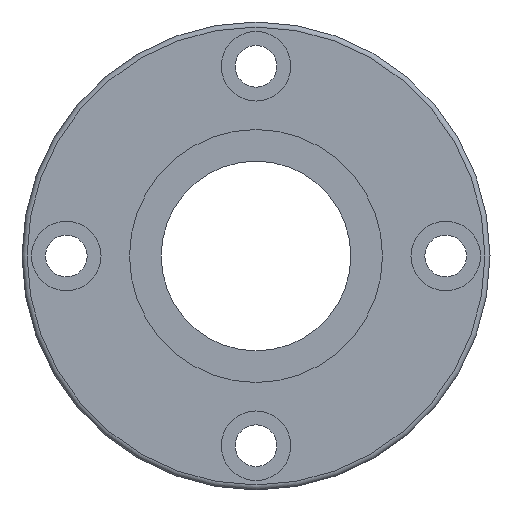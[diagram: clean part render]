
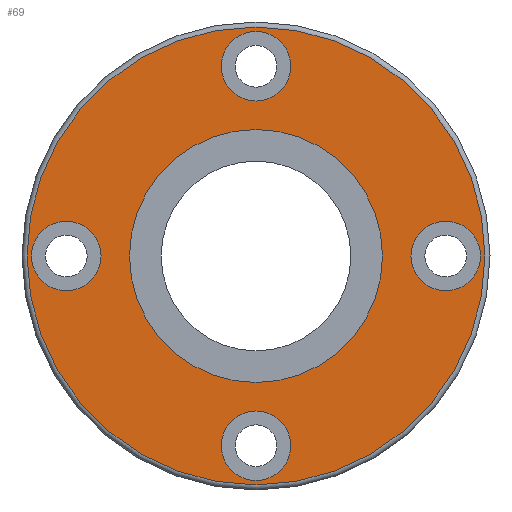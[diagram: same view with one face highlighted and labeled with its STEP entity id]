
A CAD part, left-side view. The second image highlights one B-rep face of the part: STEP entity #69.
In plain terms, the highlighted planar face has unit normal (-1, 0, 0).
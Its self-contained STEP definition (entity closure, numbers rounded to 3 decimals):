
#69 = ADVANCED_FACE( '', ( #162, #163, #164, #165, #166, #167 ), #168, .T. );
#162 = FACE_BOUND( '', #285, .T. );
#163 = FACE_BOUND( '', #286, .T. );
#164 = FACE_BOUND( '', #287, .T. );
#165 = FACE_BOUND( '', #288, .T. );
#166 = FACE_BOUND( '', #289, .T. );
#167 = FACE_OUTER_BOUND( '', #290, .T. );
#168 = PLANE( '', #291 );
#285 = EDGE_LOOP( '', ( #420 ) );
#286 = EDGE_LOOP( '', ( #421 ) );
#287 = EDGE_LOOP( '', ( #422 ) );
#288 = EDGE_LOOP( '', ( #423 ) );
#289 = EDGE_LOOP( '', ( #424 ) );
#290 = EDGE_LOOP( '', ( #425 ) );
#291 = AXIS2_PLACEMENT_3D( '', #426, #427, #428 );
#420 = ORIENTED_EDGE( '', *, *, #559, .T. );
#421 = ORIENTED_EDGE( '', *, *, #560, .T. );
#422 = ORIENTED_EDGE( '', *, *, #561, .T. );
#423 = ORIENTED_EDGE( '', *, *, #562, .T. );
#424 = ORIENTED_EDGE( '', *, *, #563, .F. );
#425 = ORIENTED_EDGE( '', *, *, #556, .T. );
#426 = CARTESIAN_POINT( '', ( 0., 28.4, 0. ) );
#427 = DIRECTION( '', ( -1., 0., 0. ) );
#428 = DIRECTION( '', ( 0., 1., 0. ) );
#556 = EDGE_CURVE( '', #630, #630, #631, .T. );
#559 = EDGE_CURVE( '', #635, #635, #636, .T. );
#560 = EDGE_CURVE( '', #637, #637, #638, .T. );
#561 = EDGE_CURVE( '', #639, #639, #640, .T. );
#562 = EDGE_CURVE( '', #641, #641, #642, .T. );
#563 = EDGE_CURVE( '', #643, #643, #644, .T. );
#630 = VERTEX_POINT( '', #719 );
#631 = CIRCLE( '', #720, 36.2 );
#635 = VERTEX_POINT( '', #724 );
#636 = CIRCLE( '', #725, 5.5 );
#637 = VERTEX_POINT( '', #726 );
#638 = CIRCLE( '', #727, 5.5 );
#639 = VERTEX_POINT( '', #728 );
#640 = CIRCLE( '', #729, 5.5 );
#641 = VERTEX_POINT( '', #730 );
#642 = CIRCLE( '', #731, 5.5 );
#643 = VERTEX_POINT( '', #732 );
#644 = CIRCLE( '', #733, 20. );
#719 = CARTESIAN_POINT( '', ( 0., 36.2, 0. ) );
#720 = AXIS2_PLACEMENT_3D( '', #815, #816, #817 );
#724 = CARTESIAN_POINT( '', ( 0., 0., -35.5 ) );
#725 = AXIS2_PLACEMENT_3D( '', #821, #822, #823 );
#726 = CARTESIAN_POINT( '', ( 0., 0., 35.5 ) );
#727 = AXIS2_PLACEMENT_3D( '', #824, #825, #826 );
#728 = CARTESIAN_POINT( '', ( 0., 35.5, 0. ) );
#729 = AXIS2_PLACEMENT_3D( '', #827, #828, #829 );
#730 = CARTESIAN_POINT( '', ( 0., -35.5, 0. ) );
#731 = AXIS2_PLACEMENT_3D( '', #830, #831, #832 );
#732 = CARTESIAN_POINT( '', ( 0., 20., 0. ) );
#733 = AXIS2_PLACEMENT_3D( '', #833, #834, #835 );
#815 = CARTESIAN_POINT( '', ( 0., 0., 0. ) );
#816 = DIRECTION( '', ( -1., 0., 0. ) );
#817 = DIRECTION( '', ( 0., 0., 1. ) );
#821 = CARTESIAN_POINT( '', ( 0., 0., -30. ) );
#822 = DIRECTION( '', ( 1., 0., 0. ) );
#823 = DIRECTION( '', ( 0., 0., -1. ) );
#824 = CARTESIAN_POINT( '', ( 0., 0., 30. ) );
#825 = DIRECTION( '', ( 1., 0., 0. ) );
#826 = DIRECTION( '', ( 0., 0., 1. ) );
#827 = CARTESIAN_POINT( '', ( 0., 30., 0. ) );
#828 = DIRECTION( '', ( 1., 0., 0. ) );
#829 = DIRECTION( '', ( 0., 1., 0. ) );
#830 = CARTESIAN_POINT( '', ( 0., -30., 0. ) );
#831 = DIRECTION( '', ( 1., 0., 0. ) );
#832 = DIRECTION( '', ( 0., -1., 0. ) );
#833 = CARTESIAN_POINT( '', ( 0., 0., 0. ) );
#834 = DIRECTION( '', ( -1., 0., 0. ) );
#835 = DIRECTION( '', ( 0., 1., 0. ) );
